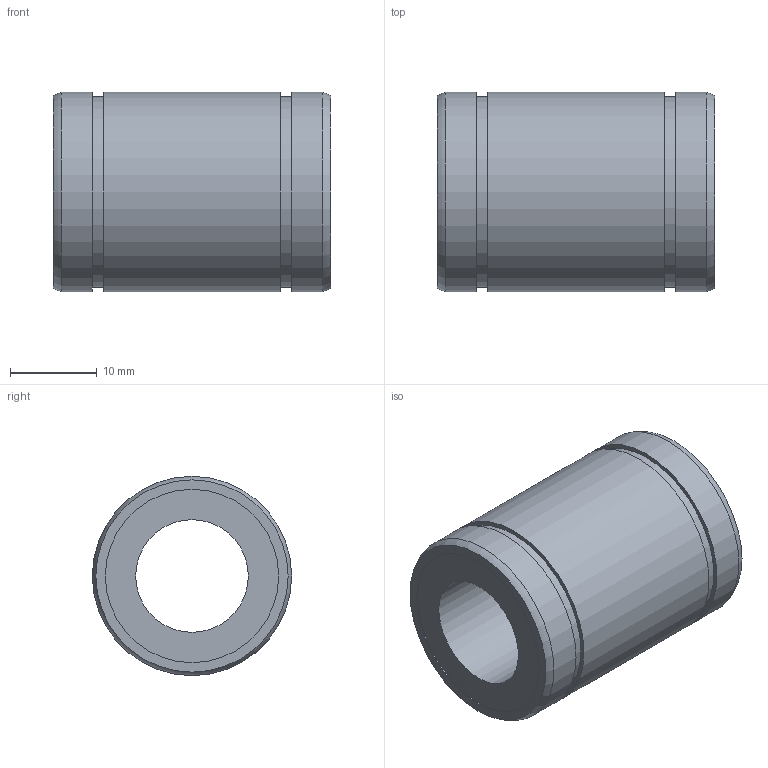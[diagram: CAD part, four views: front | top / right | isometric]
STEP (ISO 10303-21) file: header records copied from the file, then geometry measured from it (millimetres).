
FILE_DESCRIPTION((''),'2;1');
FILE_NAME('D:\製品 (図面)\カタログ用3D\リニアベアリング関連\STEP形式\L\L13.stp','2010-06-02T17:32:13',('Tsuchiya'),(''),'Autodesk Inventor 10','Autodesk Inventor 10','');
FILE_SCHEMA(('AUTOMOTIVE_DESIGN { 1 0 10303 214 1 1 1 1 }'));
Length unit declared in the file: millimetre
Products named in the file (1): L13
Bounding box: 32 x 23 x 23 mm (x, y, z)
Volume: 8896.5 mm3; surface area: 4275.3 mm2
Topology: 1 solids, 1 shells, 18 faces, 28 edges, 18 vertices
Faces by surface type: cylinder 8, plane 8, torus 2
Full cylindrical faces by diameter (mm): 13 x1, 20 x2, 22 x2, 23 x3
Entity records: 391 total; most frequent: DIRECTION 74, CARTESIAN_POINT 55, AXIS2_PLACEMENT_3D 37, ORIENTED_EDGE 36, EDGE_LOOP 36, VERTEX_POINT 18, CIRCLE 18, EDGE_CURVE 18
